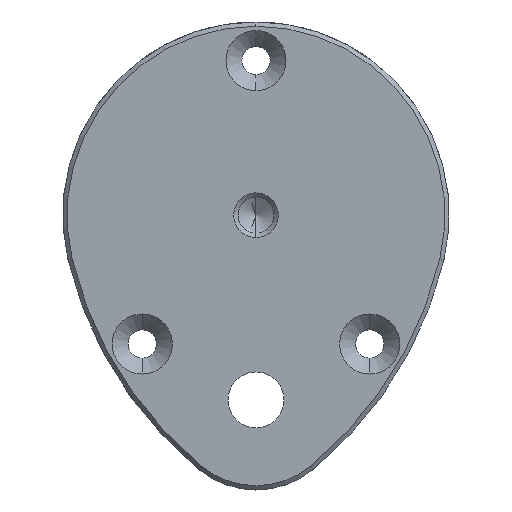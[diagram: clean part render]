
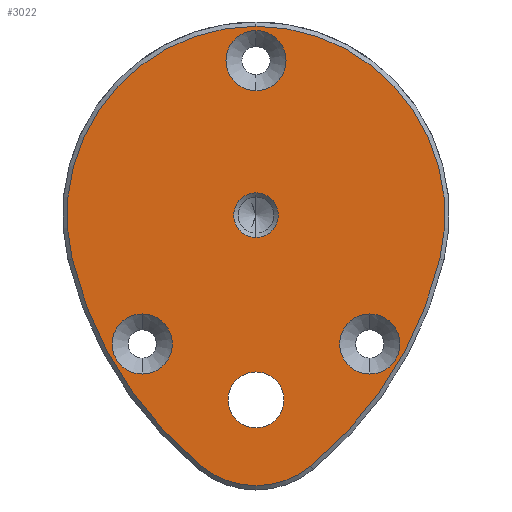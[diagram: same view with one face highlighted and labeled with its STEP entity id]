
A CAD part, front view. The second image highlights one B-rep face of the part: STEP entity #3022.
In plain terms, the highlighted planar face has unit normal (0, -1, 0).
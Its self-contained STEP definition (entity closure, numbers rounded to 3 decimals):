
#10 = CIRCLE ( 'NONE', #640, 3.5 ) ;
#25 = ORIENTED_EDGE ( 'NONE', *, *, #2481, .T. ) ;
#26 = EDGE_LOOP ( 'NONE', ( #4969, #4065 ) ) ;
#198 = DIRECTION ( 'NONE',  ( 0., 0., 1. ) ) ;
#207 = CARTESIAN_POINT ( 'NONE',  ( 0., 0., 0. ) ) ;
#220 = EDGE_CURVE ( 'NONE', #705, #1208, #1869, .T. ) ;
#272 = ORIENTED_EDGE ( 'NONE', *, *, #2503, .F. ) ;
#320 = CARTESIAN_POINT ( 'NONE',  ( 0., 0., -2.6 ) ) ;
#325 = DIRECTION ( 'NONE',  ( 0., 0., -1. ) ) ;
#342 = AXIS2_PLACEMENT_3D ( 'NONE', #2372, #1518, #2294 ) ;
#364 = VERTEX_POINT ( 'NONE', #4245 ) ;
#396 = VERTEX_POINT ( 'NONE', #1897 ) ;
#424 = ORIENTED_EDGE ( 'NONE', *, *, #2455, .T. ) ;
#425 = DIRECTION ( 'NONE',  ( 0., 1., 0. ) ) ;
#427 = CIRCLE ( 'NONE', #342, 3.5 ) ;
#474 = ORIENTED_EDGE ( 'NONE', *, *, #5161, .F. ) ;
#532 = CIRCLE ( 'NONE', #1243, 3.5 ) ;
#547 = CIRCLE ( 'NONE', #3669, 44.5 ) ;
#576 = DIRECTION ( 'NONE',  ( 0., 0., 1. ) ) ;
#583 = DIRECTION ( 'NONE',  ( 0., -1., 0. ) ) ;
#614 = AXIS2_PLACEMENT_3D ( 'NONE', #207, #3189, #3634 ) ;
#640 = AXIS2_PLACEMENT_3D ( 'NONE', #1017, #2262, #1043 ) ;
#669 = CARTESIAN_POINT ( 'NONE',  ( 13.25, 0., -15. ) ) ;
#678 = AXIS2_PLACEMENT_3D ( 'NONE', #2473, #3717, #784 ) ;
#705 = VERTEX_POINT ( 'NONE', #3138 ) ;
#762 = CIRCLE ( 'NONE', #4882, 2.6 ) ;
#784 = DIRECTION ( 'NONE',  ( 0., 0., -1. ) ) ;
#829 = CARTESIAN_POINT ( 'NONE',  ( 0., 0., -24.75 ) ) ;
#871 = VERTEX_POINT ( 'NONE', #1237 ) ;
#930 = ORIENTED_EDGE ( 'NONE', *, *, #2265, .F. ) ;
#935 = VERTEX_POINT ( 'NONE', #5202 ) ;
#1014 = EDGE_CURVE ( 'NONE', #396, #1690, #427, .T. ) ;
#1017 = CARTESIAN_POINT ( 'NONE',  ( 0., 0., 18. ) ) ;
#1043 = DIRECTION ( 'NONE',  ( 0., 0., -1. ) ) ;
#1208 = VERTEX_POINT ( 'NONE', #3373 ) ;
#1237 = CARTESIAN_POINT ( 'NONE',  ( 0., 0., 22. ) ) ;
#1243 = AXIS2_PLACEMENT_3D ( 'NONE', #2027, #1661, #2131 ) ;
#1287 = ORIENTED_EDGE ( 'NONE', *, *, #4214, .T. ) ;
#1360 = AXIS2_PLACEMENT_3D ( 'NONE', #2366, #583, #198 ) ;
#1376 = EDGE_LOOP ( 'NONE', ( #1848, #424 ) ) ;
#1412 = CARTESIAN_POINT ( 'NONE',  ( -21.414, 0., -5.042 ) ) ;
#1459 = DIRECTION ( 'NONE',  ( 0., 1., 0. ) ) ;
#1470 = EDGE_CURVE ( 'NONE', #1690, #396, #532, .T. ) ;
#1486 = DIRECTION ( 'NONE',  ( 0., 0., 1. ) ) ;
#1518 = DIRECTION ( 'NONE',  ( 0., -1., 0. ) ) ;
#1531 = DIRECTION ( 'NONE',  ( 0., -1., 0. ) ) ;
#1573 = AXIS2_PLACEMENT_3D ( 'NONE', #4734, #3475, #3562 ) ;
#1599 = PLANE ( 'NONE',  #1882 ) ;
#1601 = CIRCLE ( 'NONE', #614, 22. ) ;
#1616 = CARTESIAN_POINT ( 'NONE',  ( 0., 0., -21.5 ) ) ;
#1621 = CIRCLE ( 'NONE', #1815, 2.6 ) ;
#1661 = DIRECTION ( 'NONE',  ( 0., -1., 0. ) ) ;
#1690 = VERTEX_POINT ( 'NONE', #4505 ) ;
#1702 = AXIS2_PLACEMENT_3D ( 'NONE', #2673, #3876, #3900 ) ;
#1808 = VERTEX_POINT ( 'NONE', #1860 ) ;
#1815 = AXIS2_PLACEMENT_3D ( 'NONE', #4060, #1459, #1486 ) ;
#1843 = ORIENTED_EDGE ( 'NONE', *, *, #220, .T. ) ;
#1848 = ORIENTED_EDGE ( 'NONE', *, *, #3672, .T. ) ;
#1860 = CARTESIAN_POINT ( 'NONE',  ( 21.414, 0., -5.042 ) ) ;
#1869 = CIRCLE ( 'NONE', #4981, 10. ) ;
#1882 = AXIS2_PLACEMENT_3D ( 'NONE', #2472, #3403, #2950 ) ;
#1897 = CARTESIAN_POINT ( 'NONE',  ( -13.25, 0., -11.5 ) ) ;
#2024 = CIRCLE ( 'NONE', #5140, 3.25 ) ;
#2027 = CARTESIAN_POINT ( 'NONE',  ( -13.25, 0., -15. ) ) ;
#2131 = DIRECTION ( 'NONE',  ( 0., 0., -1. ) ) ;
#2262 = DIRECTION ( 'NONE',  ( 0., -1., 0. ) ) ;
#2265 = EDGE_CURVE ( 'NONE', #2918, #5413, #4376, .T. ) ;
#2294 = DIRECTION ( 'NONE',  ( 0., 0., -1. ) ) ;
#2366 = CARTESIAN_POINT ( 'NONE',  ( 0., 0., 0. ) ) ;
#2372 = CARTESIAN_POINT ( 'NONE',  ( -13.25, 0., -15. ) ) ;
#2455 = EDGE_CURVE ( 'NONE', #935, #5388, #1621, .T. ) ;
#2457 = EDGE_CURVE ( 'NONE', #5413, #2918, #3388, .T. ) ;
#2465 = CARTESIAN_POINT ( 'NONE',  ( 0., 0., 14.5 ) ) ;
#2472 = CARTESIAN_POINT ( 'NONE',  ( 10.951, 0., 2.578 ) ) ;
#2473 = CARTESIAN_POINT ( 'NONE',  ( 0., 0., -21.5 ) ) ;
#2481 = EDGE_CURVE ( 'NONE', #871, #5491, #3308, .T. ) ;
#2501 = FACE_OUTER_BOUND ( 'NONE', #5518, .T. ) ;
#2503 = EDGE_CURVE ( 'NONE', #3180, #364, #10, .T. ) ;
#2536 = AXIS2_PLACEMENT_3D ( 'NONE', #3297, #4211, #5007 ) ;
#2545 = DIRECTION ( 'NONE',  ( 0., 0., 1. ) ) ;
#2590 = AXIS2_PLACEMENT_3D ( 'NONE', #669, #3160, #4868 ) ;
#2673 = CARTESIAN_POINT ( 'NONE',  ( 13.25, 0., -15. ) ) ;
#2777 = CARTESIAN_POINT ( 'NONE',  ( -21.901, 0., 5.157 ) ) ;
#2842 = FACE_BOUND ( 'NONE', #1376, .T. ) ;
#2918 = VERTEX_POINT ( 'NONE', #4048 ) ;
#2950 = DIRECTION ( 'NONE',  ( 0., 0., 1. ) ) ;
#2959 = EDGE_CURVE ( 'NONE', #1808, #871, #1601, .T. ) ;
#2968 = DIRECTION ( 'NONE',  ( 0., -1., 0. ) ) ;
#2993 = EDGE_LOOP ( 'NONE', ( #4445, #930 ) ) ;
#3013 = CARTESIAN_POINT ( 'NONE',  ( 13.25, 0., -18.5 ) ) ;
#3022 = ADVANCED_FACE ( 'NONE', ( #2842, #3375, #3326, #4603, #2501, #5426 ), #1599, .F. ) ;
#3086 = ORIENTED_EDGE ( 'NONE', *, *, #2959, .T. ) ;
#3138 = CARTESIAN_POINT ( 'NONE',  ( -6.348, 0., -29.227 ) ) ;
#3160 = DIRECTION ( 'NONE',  ( 0., -1., 0. ) ) ;
#3180 = VERTEX_POINT ( 'NONE', #2465 ) ;
#3189 = DIRECTION ( 'NONE',  ( 0., -1., 0. ) ) ;
#3297 = CARTESIAN_POINT ( 'NONE',  ( 21.901, 0., 5.157 ) ) ;
#3308 = CIRCLE ( 'NONE', #1360, 22. ) ;
#3315 = DIRECTION ( 'NONE',  ( 0., -1., 0. ) ) ;
#3322 = ORIENTED_EDGE ( 'NONE', *, *, #5351, .T. ) ;
#3326 = FACE_BOUND ( 'NONE', #2993, .T. ) ;
#3373 = CARTESIAN_POINT ( 'NONE',  ( 6.348, 0., -29.227 ) ) ;
#3375 = FACE_BOUND ( 'NONE', #26, .T. ) ;
#3388 = CIRCLE ( 'NONE', #2590, 3.5 ) ;
#3403 = DIRECTION ( 'NONE',  ( 0., 1., 0. ) ) ;
#3475 = DIRECTION ( 'NONE',  ( 0., -1., 0. ) ) ;
#3562 = DIRECTION ( 'NONE',  ( 0., 0., -1. ) ) ;
#3634 = DIRECTION ( 'NONE',  ( 0., 0., 1. ) ) ;
#3669 = AXIS2_PLACEMENT_3D ( 'NONE', #2777, #1531, #576 ) ;
#3672 = EDGE_CURVE ( 'NONE', #5388, #935, #762, .T. ) ;
#3717 = DIRECTION ( 'NONE',  ( 0., -1., 0. ) ) ;
#3728 = EDGE_LOOP ( 'NONE', ( #272, #4765 ) ) ;
#3747 = EDGE_CURVE ( 'NONE', #364, #3180, #3976, .T. ) ;
#3876 = DIRECTION ( 'NONE',  ( 0., -1., 0. ) ) ;
#3900 = DIRECTION ( 'NONE',  ( 0., 0., -1. ) ) ;
#3964 = VERTEX_POINT ( 'NONE', #4361 ) ;
#3972 = CIRCLE ( 'NONE', #2536, 44.5 ) ;
#3976 = CIRCLE ( 'NONE', #1573, 3.5 ) ;
#4048 = CARTESIAN_POINT ( 'NONE',  ( 13.25, 0., -11.5 ) ) ;
#4060 = CARTESIAN_POINT ( 'NONE',  ( 0., 0., 0. ) ) ;
#4065 = ORIENTED_EDGE ( 'NONE', *, *, #1014, .F. ) ;
#4081 = EDGE_CURVE ( 'NONE', #5201, #3964, #4236, .T. ) ;
#4211 = DIRECTION ( 'NONE',  ( 0., -1., 0. ) ) ;
#4214 = EDGE_CURVE ( 'NONE', #5491, #705, #3972, .T. ) ;
#4236 = CIRCLE ( 'NONE', #678, 3.25 ) ;
#4245 = CARTESIAN_POINT ( 'NONE',  ( 0., 0., 21.5 ) ) ;
#4361 = CARTESIAN_POINT ( 'NONE',  ( 0., 0., -18.25 ) ) ;
#4376 = CIRCLE ( 'NONE', #1702, 3.5 ) ;
#4445 = ORIENTED_EDGE ( 'NONE', *, *, #2457, .F. ) ;
#4505 = CARTESIAN_POINT ( 'NONE',  ( -13.25, 0., -18.5 ) ) ;
#4603 = FACE_BOUND ( 'NONE', #3728, .T. ) ;
#4629 = EDGE_LOOP ( 'NONE', ( #5061, #474 ) ) ;
#4734 = CARTESIAN_POINT ( 'NONE',  ( 0., 0., 18. ) ) ;
#4765 = ORIENTED_EDGE ( 'NONE', *, *, #3747, .F. ) ;
#4868 = DIRECTION ( 'NONE',  ( 0., 0., -1. ) ) ;
#4882 = AXIS2_PLACEMENT_3D ( 'NONE', #5021, #425, #5118 ) ;
#4969 = ORIENTED_EDGE ( 'NONE', *, *, #1470, .F. ) ;
#4981 = AXIS2_PLACEMENT_3D ( 'NONE', #5155, #2968, #2545 ) ;
#5007 = DIRECTION ( 'NONE',  ( 0., 0., 1. ) ) ;
#5021 = CARTESIAN_POINT ( 'NONE',  ( 0., 0., 0. ) ) ;
#5061 = ORIENTED_EDGE ( 'NONE', *, *, #4081, .F. ) ;
#5118 = DIRECTION ( 'NONE',  ( 0., 0., 1. ) ) ;
#5140 = AXIS2_PLACEMENT_3D ( 'NONE', #1616, #3315, #325 ) ;
#5155 = CARTESIAN_POINT ( 'NONE',  ( 0., 0., -21.5 ) ) ;
#5161 = EDGE_CURVE ( 'NONE', #3964, #5201, #2024, .T. ) ;
#5201 = VERTEX_POINT ( 'NONE', #829 ) ;
#5202 = CARTESIAN_POINT ( 'NONE',  ( 0., 0., 2.6 ) ) ;
#5351 = EDGE_CURVE ( 'NONE', #1208, #1808, #547, .T. ) ;
#5388 = VERTEX_POINT ( 'NONE', #320 ) ;
#5413 = VERTEX_POINT ( 'NONE', #3013 ) ;
#5426 = FACE_BOUND ( 'NONE', #4629, .T. ) ;
#5491 = VERTEX_POINT ( 'NONE', #1412 ) ;
#5518 = EDGE_LOOP ( 'NONE', ( #3322, #3086, #25, #1287, #1843 ) ) ;
